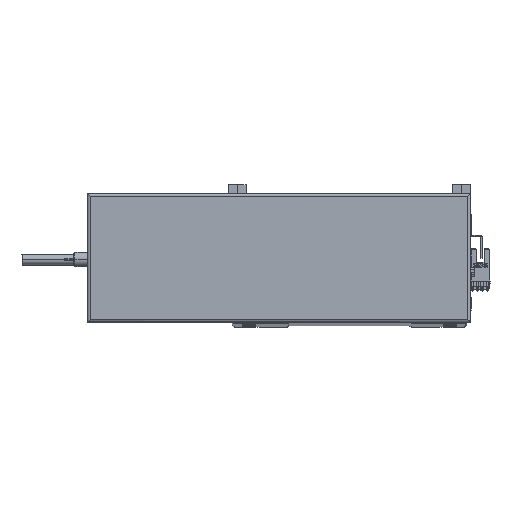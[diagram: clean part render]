
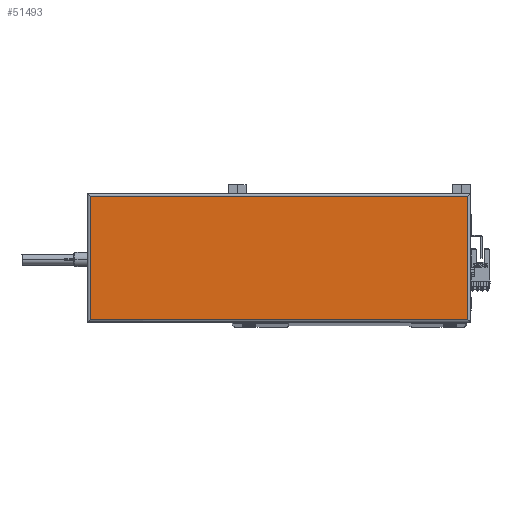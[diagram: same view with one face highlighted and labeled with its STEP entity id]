
A CAD part, top view. The second image highlights one B-rep face of the part: STEP entity #51493.
In plain terms, the highlighted planar face has unit normal (0, 0, 1).
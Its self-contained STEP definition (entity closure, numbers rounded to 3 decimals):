
#1239 = VECTOR ( 'NONE', #41915, 1000. ) ;
#6152 = VERTEX_POINT ( 'NONE', #30859 ) ;
#6954 = DIRECTION ( 'NONE',  ( 0., -1., 0. ) ) ;
#8899 = LINE ( 'NONE', #29242, #1239 ) ;
#12742 = VERTEX_POINT ( 'NONE', #41060 ) ;
#12795 = VECTOR ( 'NONE', #28057, 1000. ) ;
#13405 = VECTOR ( 'NONE', #28825, 1000. ) ;
#15240 = PLANE ( 'NONE',  #53114 ) ;
#15361 = CARTESIAN_POINT ( 'NONE',  ( 2., 88., 44.8 ) ) ;
#18512 = VERTEX_POINT ( 'NONE', #15361 ) ;
#19840 = LINE ( 'NONE', #34026, #13405 ) ;
#20276 = ORIENTED_EDGE ( 'NONE', *, *, #48996, .T. ) ;
#20819 = CARTESIAN_POINT ( 'NONE',  ( 265., 2., 44.8 ) ) ;
#23956 = CARTESIAN_POINT ( 'NONE',  ( 0., 88., 44.8 ) ) ;
#25608 = LINE ( 'NONE', #23956, #12795 ) ;
#27268 = DIRECTION ( 'NONE',  ( 0., 0., 1. ) ) ;
#27535 = ORIENTED_EDGE ( 'NONE', *, *, #35634, .T. ) ;
#28057 = DIRECTION ( 'NONE',  ( -1., 0., 0. ) ) ;
#28825 = DIRECTION ( 'NONE',  ( 0., 1., 0. ) ) ;
#29242 = CARTESIAN_POINT ( 'NONE',  ( 267., 2., 44.8 ) ) ;
#29990 = EDGE_CURVE ( 'NONE', #6152, #18512, #25608, .T. ) ;
#30859 = CARTESIAN_POINT ( 'NONE',  ( 265., 88., 44.8 ) ) ;
#32104 = DIRECTION ( 'NONE',  ( 1., 0., 0. ) ) ;
#34026 = CARTESIAN_POINT ( 'NONE',  ( 265., 90., 44.8 ) ) ;
#34773 = FACE_OUTER_BOUND ( 'NONE', #49108, .T. ) ;
#35101 = CARTESIAN_POINT ( 'NONE',  ( 2., 0., 44.8 ) ) ;
#35634 = EDGE_CURVE ( 'NONE', #12742, #51113, #8899, .T. ) ;
#39954 = CARTESIAN_POINT ( 'NONE',  ( 133.5, 45., 44.8 ) ) ;
#41060 = CARTESIAN_POINT ( 'NONE',  ( 2., 2., 44.8 ) ) ;
#41915 = DIRECTION ( 'NONE',  ( 1., 0., 0. ) ) ;
#43600 = LINE ( 'NONE', #35101, #53256 ) ;
#47809 = EDGE_CURVE ( 'NONE', #18512, #12742, #43600, .T. ) ;
#48996 = EDGE_CURVE ( 'NONE', #51113, #6152, #19840, .T. ) ;
#49108 = EDGE_LOOP ( 'NONE', ( #20276, #50773, #51874, #27535 ) ) ;
#50773 = ORIENTED_EDGE ( 'NONE', *, *, #29990, .T. ) ;
#51113 = VERTEX_POINT ( 'NONE', #20819 ) ;
#51493 = ADVANCED_FACE ( 'NONE', ( #34773 ), #15240, .T. ) ;
#51874 = ORIENTED_EDGE ( 'NONE', *, *, #47809, .T. ) ;
#53114 = AXIS2_PLACEMENT_3D ( 'NONE', #39954, #27268, #32104 ) ;
#53256 = VECTOR ( 'NONE', #6954, 1000. ) ;
